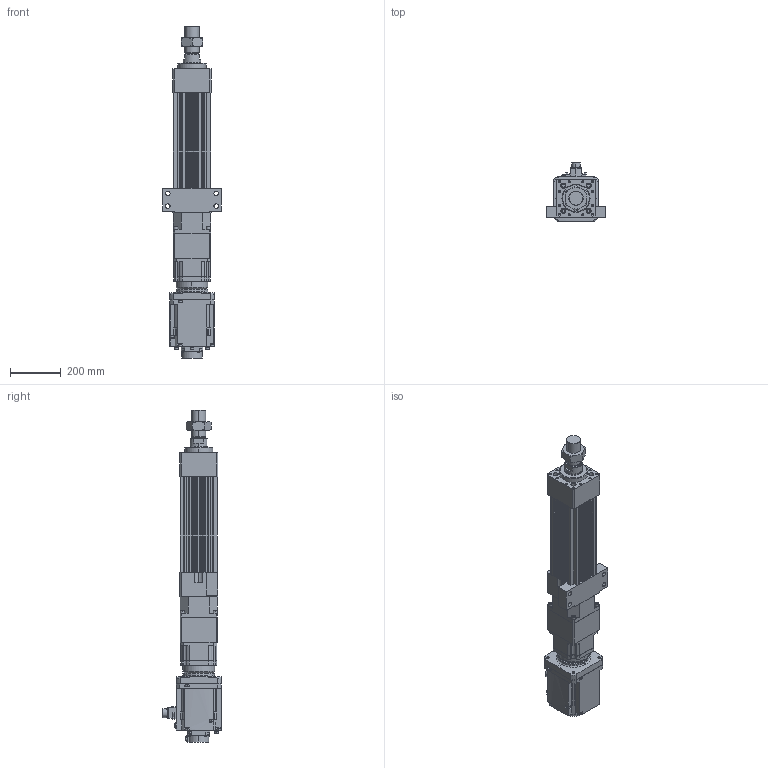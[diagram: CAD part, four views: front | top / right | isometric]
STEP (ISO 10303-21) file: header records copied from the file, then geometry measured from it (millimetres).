
FILE_DESCRIPTION (( 'STEP AP203' ), '1' );
FILE_NAME ('HES150NS(HS)-S100-W050G00-M-FFC.STEP', '2026-06-10T06:41:18', ( 'tms' ), ( '' ), 'SwSTEP 2.0', 'SolidWorks 2013', '' );
FILE_SCHEMA (( 'CONFIG_CONTROL_DESIGN' ));
Length unit declared in the file: millimetre
Products named in the file (9): HES150-S-G142; M56X2.0P; HES150-FFC-100; HES150NS(HS)-S100-W050G00-M-FFC; AB1423; AB1421; HES150-M-ROD-100; AB1422; HG-SR502B
Assembly tree (8 placements, depth 2):
  HES150NS(HS)-S100-W050G00-M-FFC
    HES150-FFC-100
    HES150-M-ROD-100
    M56X2.0P
    HES150-S-G142
    AB1421
    AB1422
    AB1423
    HG-SR502B
Bounding box: 230 x 228.85 x 1303 mm (x, y, z)
Volume: 15472486.2 mm3; surface area: 1522407.3 mm2
Topology: 5 solids, 19 shells, 1588 faces, 4128 edges, 2674 vertices
Faces by surface type: cylinder 726, plane 616, cone 164, bspline 76, torus 6
Entity records: 57568 total; most frequent: CARTESIAN_POINT 17176, DIRECTION 8476, ORIENTED_EDGE 8134, EDGE_CURVE 4089, AXIS2_PLACEMENT_3D 3199, VERTEX_POINT 2674, VECTOR 2078, LINE 2078
